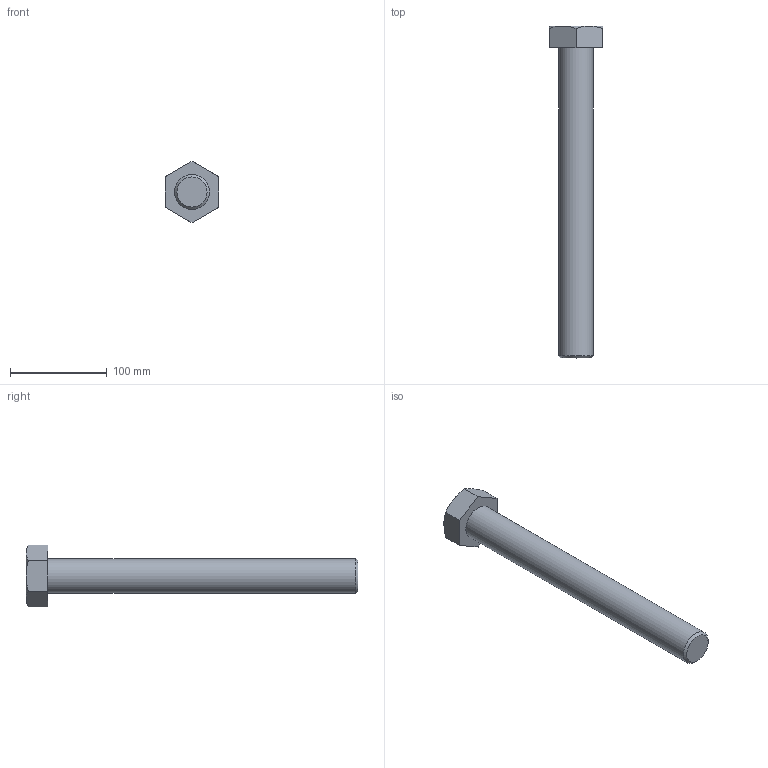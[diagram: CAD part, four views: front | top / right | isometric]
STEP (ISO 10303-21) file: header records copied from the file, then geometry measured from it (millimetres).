
FILE_DESCRIPTION(/* description */ (''),/* implementation_level */ '2;1');
FILE_NAME(/* name */ 'C:\Users\unitec\Documents\Inventor\各種小物\JIS\JIS B 1180 六角ボルト 等級C\hbc36\M36x320.stp',/* time_stamp */ '2015-02-13T14:56:34+09:00',/* author */ ('unitec'),/* organization */ (''),/* preprocessor_version */ 'ST-DEVELOPER v15.2',/* originating_system */ 'Autodesk Inventor 2014',/* authorisation */ '');
FILE_SCHEMA (('AUTOMOTIVE_DESIGN { 1 0 10303 214 3 1 1 }'));
Length unit declared in the file: millimetre
Products named in the file (1): M36x320
Bounding box: 55 x 342.5 x 63.51 mm (x, y, z)
Volume: 384159.5 mm3; surface area: 45424.5 mm2
Topology: 1 solids, 1 shells, 17 faces, 35 edges, 21 vertices
Faces by surface type: plane 9, cone 7, cylinder 1
Full cylindrical faces by diameter (mm): 36 x1
Entity records: 441 total; most frequent: CARTESIAN_POINT 96, ORIENTED_EDGE 66, DIRECTION 66, EDGE_CURVE 33, AXIS2_PLACEMENT_3D 27, VERTEX_POINT 21, EDGE_LOOP 20, ADVANCED_FACE 17
